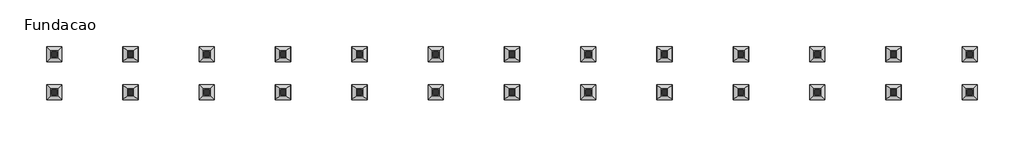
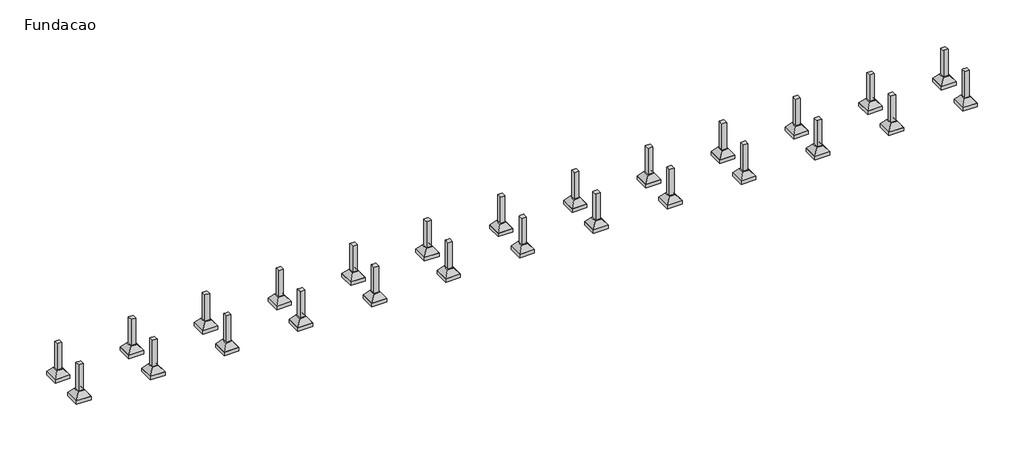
# One storey: 26 columns, 26 fasteners.
"""IFC4 building model written with IfcOpenShell, lengths in millimetres."""

import ifcopenshell
import ifcopenshell.guid

model = None  # the IFC model being written
_history = None  # IfcOwnerHistory: only IFC2X3 demands one
_inside = {}  # id of a spatial element -> (the spatial element, [elements in it])
_under = {}  # id of a project, library or spatial element -> (it, [spatial elements below it])
_declared = {}  # id of a project -> (the project, [libraries it declares])
_typed = {}  # id of a type object -> (the type object, [elements of that type])
_made_of = {}  # id of a material, layer set ... -> (it, [elements and type objects made of it])


def new_model(schema):
    """Start an empty IFC model of exactly this schema.

    Asked for "IFC4X3", IfcOpenShell would pick the latest addendum, in which some entities
    have other attributes; the version numbers below select the first issue.
    IFC2X3 requires an IfcOwnerHistory on every rooted entity: one is made here for all.
    """
    global model, _history
    if schema == "IFC4X3":
        model = ifcopenshell.file(schema_version=(4, 3, 0, 0))
    else:
        model = ifcopenshell.file(schema=schema)
    _inside.clear()
    _under.clear()
    _declared.clear()
    _typed.clear()
    _made_of.clear()
    _history = None
    if model.schema == "IFC2X3":
        org = make("IfcOrganization", Name="unknown")
        user = make(
            "IfcPersonAndOrganization",
            ThePerson=make("IfcPerson", FamilyName="unknown"),
            TheOrganization=org,
        )
        app = make(
            "IfcApplication",
            ApplicationDeveloper=org,
            Version="unknown",
            ApplicationFullName="unknown",
            ApplicationIdentifier="unknown",
        )
        _history = make(
            "IfcOwnerHistory",
            OwningUser=user,
            OwningApplication=app,
            ChangeAction="ADDED",
            CreationDate=0,
        )
    return model


def make(cls, **values):
    """One entity of the class cls with the attributes given. An attribute that is None is left unset."""
    return model.create_entity(
        cls, **{name: value for name, value in values.items() if value is not None}
    )


def rooted(cls, **values):
    """An entity with a GlobalId (a new one), such as an element, a storey or a relation."""
    return make(cls, GlobalId=ifcopenshell.guid.new(), OwnerHistory=_history, **values)


def si_unit(unit_type, name, prefix=None):
    """IfcSIUnit, for example si_unit("LENGTHUNIT", "METRE", prefix="MILLI")."""
    return make("IfcSIUnit", UnitType=unit_type, Prefix=prefix, Name=name)


def assignment(units):
    """IfcUnitAssignment: the units of a project."""
    return None if units is None else make("IfcUnitAssignment", Units=units)


def point(xyz):
    """IfcCartesianPoint."""
    return None if xyz is None else make("IfcCartesianPoint", Coordinates=xyz)


def direction(xyz):
    """IfcDirection."""
    return None if xyz is None else make("IfcDirection", DirectionRatios=xyz)


def frame(location, z_axis=None, x_axis=None):
    """IfcAxis2Placement3D, a coordinate frame: its origin and axes. An axis left out is left unset."""
    return make(
        "IfcAxis2Placement3D",
        Location=point(location),
        Axis=direction(z_axis),
        RefDirection=direction(x_axis),
    )


def origin():
    """The frame at (0, 0, 0) with its axes left unset."""
    return frame((0.0, 0.0, 0.0))


def place(relative_to, where):
    """IfcLocalPlacement: puts the frame where relative to a parent placement (None: the world)."""
    return make(
        "IfcLocalPlacement", PlacementRelTo=relative_to, RelativePlacement=where
    )


def context(
    kind, dimensions, precision=None, world=None, true_north=None, identifier=None
):
    """IfcGeometricRepresentationContext, for example the 3D "Model" context."""
    return make(
        "IfcGeometricRepresentationContext",
        ContextIdentifier=identifier,
        ContextType=kind,
        CoordinateSpaceDimension=dimensions,
        Precision=precision,
        WorldCoordinateSystem=world,
        TrueNorth=true_north,
    )


def project(units=None, contexts=None):
    """IfcProject with its units and contexts."""
    return rooted(
        "IfcProject",
        Name="project",
        RepresentationContexts=contexts,
        UnitsInContext=assignment(units),
    )


def spatial(cls, under=None, at=None, **own):
    """A site, building, storey or space (cls), placed at a placement, below another one or the project."""
    s = rooted(cls, ObjectPlacement=at, **own)
    if under is not None:
        _under.setdefault(under.id(), (under, []))[1].append(s)
    return s


def polyline(points):
    """IfcPolyline through the points."""
    return make("IfcPolyline", Points=[point(p) for p in points])


def outline(outer, holes=None, kind="AREA"):
    """IfcArbitraryClosedProfileDef: a profile drawn as a closed curve; with holes, ...WithVoids."""
    if holes is None:
        return make("IfcArbitraryClosedProfileDef", ProfileType=kind, OuterCurve=outer)
    return make(
        "IfcArbitraryProfileDefWithVoids",
        ProfileType=kind,
        OuterCurve=outer,
        InnerCurves=holes,
    )


def extrude(swept, where, along, depth):
    """IfcExtrudedAreaSolid: the profile swept, set in the frame where, extruded along a direction by depth."""
    return make(
        "IfcExtrudedAreaSolid",
        SweptArea=swept,
        Position=where,
        ExtrudedDirection=direction(along),
        Depth=depth,
    )


def faces_of(points, faces, orient=None, outer=None):
    """IfcFace entities. A face is a list of loops; a loop is a list of indices into points, from 0.

    orient and outer hold one flag for each loop. By default every Orientation is true, the
    first loop of a face is its IfcFaceOuterBound and the others are IfcFaceBound.
    """
    made = []
    for i, loops in enumerate(faces):
        bounds = []
        for j, loop in enumerate(loops):
            is_outer = j == 0 if outer is None else outer[i][j]
            bounds.append(
                make(
                    "IfcFaceOuterBound" if is_outer else "IfcFaceBound",
                    Bound=make("IfcPolyLoop", Polygon=[points[k] for k in loop]),
                    Orientation=True if orient is None else orient[i][j],
                )
            )
        made.append(make("IfcFace", Bounds=bounds))
    return made


def faceted_brep(points, faces, orient=None, outer=None, voids=None):
    """IfcFacetedBrep: a solid bounded by flat faces; with voids (closed shells), ...WithVoids."""
    shared = [point(p) for p in points]
    hull = make("IfcClosedShell", CfsFaces=faces_of(shared, faces, orient, outer))
    if voids is None:
        return make("IfcFacetedBrep", Outer=hull)
    return make(
        "IfcFacetedBrepWithVoids",
        Outer=hull,
        Voids=[
            make(cls, CfsFaces=faces_of(shared, fs, o, b)) for cls, fs, o, b in voids
        ],
    )


def shape(context_of_items, identifier, shape_type, items):
    """IfcShapeRepresentation: the items that make up one representation, for example the "Body"."""
    return make(
        "IfcShapeRepresentation",
        ContextOfItems=context_of_items,
        RepresentationIdentifier=identifier,
        RepresentationType=shape_type,
        Items=items,
    )


def source(mapping_origin, context_of_items, identifier, shape_type, items):
    """IfcRepresentationMap: a shape defined once, which mapped items show again and again."""
    return make(
        "IfcRepresentationMap",
        MappingOrigin=mapping_origin,
        MappedRepresentation=shape(context_of_items, identifier, shape_type, items),
    )


def transform(
    local_origin,
    x_axis=None,
    y_axis=None,
    z_axis=None,
    scale=None,
    scale2=None,
    scale3=None,
    uniform=True,
):
    """IfcCartesianTransformationOperator3D, or its non-uniform kind. x_axis, y_axis, z_axis: its Axis1, 2, 3."""
    if uniform:
        return make(
            "IfcCartesianTransformationOperator3D",
            Axis1=direction(x_axis),
            Axis2=direction(y_axis),
            LocalOrigin=point(local_origin),
            Scale=scale,
            Axis3=direction(z_axis),
        )
    return make(
        "IfcCartesianTransformationOperator3DnonUniform",
        Axis1=direction(x_axis),
        Axis2=direction(y_axis),
        LocalOrigin=point(local_origin),
        Scale=scale,
        Axis3=direction(z_axis),
        Scale2=scale2,
        Scale3=scale3,
    )


def mapped(mapping_source, mapping_target):
    """IfcMappedItem: shows the shape of a source again, moved by a transform."""
    return make(
        "IfcMappedItem", MappingSource=mapping_source, MappingTarget=mapping_target
    )


def made_of(thing, what):
    """Note that an element or type object is made of a material, layer set ...; save() writes the relation."""
    if what is not None:
        _made_of.setdefault(what.id(), (what, []))[1].append(thing)
    return thing


def element(
    cls,
    number,
    at=None,
    inside=None,
    cuts=None,
    type_object=None,
    material=None,
    context=None,
    identifier="Body",
    shape_type=None,
    held_by="IfcProductDefinitionShape",
    body=None,
    shapes=None,
    **own,
):
    """One element of the class cls, such as IfcWall. Its Tag is "e" and its number.

    at: its placement. inside: the storey or other place that contains it. cuts: it is an
    opening in that element (IfcRelVoidsElement). A single representation is given by context,
    identifier, shape_type and body (its items); several are given by shapes. held_by: the class
    of the entity that holds the representations. save() writes the other relations.
    """
    e = rooted(cls, Tag="e%d" % number, ObjectPlacement=at, **own)
    if body is not None:
        shapes = [shape(context, identifier, shape_type, body)]
    if shapes is not None:
        e.Representation = make(held_by, Representations=shapes)
    if inside is not None:
        _inside.setdefault(inside.id(), (inside, []))[1].append(e)
    if cuts is not None:
        rooted(
            "IfcRelVoidsElement", RelatingBuildingElement=cuts, RelatedOpeningElement=e
        )
    if type_object is not None:
        _typed.setdefault(type_object.id(), (type_object, []))[1].append(e)
    return made_of(e, material)


def aggregate(whole, parts):
    """IfcRelAggregates: a whole, such as a stair, and the parts it consists of."""
    return rooted("IfcRelAggregates", RelatingObject=whole, RelatedObjects=parts)


def save(model, path):
    """Write the relations noted so far, then the file.

    IfcRelAggregates (storeys below a building ...), IfcRelContainedInSpatialStructure (elements
    in a storey), IfcRelDefinesByType, IfcRelAssociatesMaterial and IfcRelDeclares: one each for
    every whole, place, type object, material and project.
    """
    for whole, parts in _under.values():
        aggregate(whole, parts)
    for where, things in _inside.values():
        rooted(
            "IfcRelContainedInSpatialStructure",
            RelatedElements=things,
            RelatingStructure=where,
        )
    for kind, things in _typed.values():
        rooted("IfcRelDefinesByType", RelatedObjects=things, RelatingType=kind)
    for what, things in _made_of.values():
        rooted("IfcRelAssociatesMaterial", RelatedObjects=things, RelatingMaterial=what)
    for by, libraries in _declared.values():
        rooted("IfcRelDeclares", RelatingContext=by, RelatedDefinitions=libraries)
    model.write(path)


def s1_263c41ab(model_context):
    return source(origin(), model_context, "Body", "SolidModel", [
        faceted_brep([(-25.0, -25.0, 0.0), (-375.0, -25.0, 0.0), (-375.0, -375.0, 0.0), (-25.0, -375.0, 0.0), (200.0, 200.0, -300.0), (200.0, -600.0, -300.0), (-600.0, -600.0, -300.0), (-600.0, 200.0, -300.0)], [[[0, 1, 2, 3]], [[4, 5, 6, 7]], [[4, 7, 1, 0]], [[7, 6, 2, 1]], [[6, 5, 3, 2]], [[5, 4, 0, 3]]]),
        extrude(outline(polyline([(200.0, 200.0), (200.0, -600.0), (-600.0, -600.0), (-600.0, 200.0), (200.0, 200.0)])), frame((0.0, 0.0, -500.0), z_axis=(0.0, 0.0, 1.0), x_axis=(1.0, 0.0, 0.0)), (0.0, 0.0, 1.0), 200.0),
    ])


model = new_model("IFC4")

# Units and contexts
model_context = context("Model", 3, world=origin())
ifc_project = project(units=[si_unit("LENGTHUNIT", "METRE", prefix="MILLI")], contexts=[model_context])

# Site, building, storey
site = spatial("IfcSite", under=ifc_project)
building = spatial("IfcBuilding", under=site)
storey = spatial("IfcBuildingStorey", under=building, Name="Fundacao", Elevation=0.0)

# Columns
placement = place(None, origin())
element("IfcColumn", 1, ObjectType="TQS - Pilar retangular : 25,0x25,0", at=placement, inside=storey, context=model_context, shape_type="Brep", body=[
    faceted_brep([(-3786.795675, 1437.2017038, 0.0), (-3786.795675, 1187.2017038, 0.0), (-4036.795675, 1187.2017038, 0.0), (-4036.795675, 1437.2017038, 0.0), (-3786.795675, 1437.2017038, 1500.0), (-3786.795675, 1387.2017038, 1500.0), (-3786.795675, 1237.2017038, 1500.0), (-3786.795675, 1187.2017038, 1500.0), (-3836.795675, 1187.2017038, 1500.0), (-3986.795675, 1187.2017038, 1500.0), (-4036.795675, 1187.2017038, 1500.0), (-4036.795675, 1437.2017038, 1500.0)], [[[0, 1, 2, 3]], [[4, 5, 6, 7, 1, 0]], [[7, 8, 9, 10, 2, 1]], [[10, 11, 3, 2]], [[11, 4, 0, 3]], [[4, 11, 10, 9, 8, 7, 6, 5]]]),
])
element("IfcColumn", 2, ObjectType="TQS - Pilar retangular : 25,0x25,0", at=placement, inside=storey, context=model_context, shape_type="Brep", body=[
    faceted_brep([(-3786.795675, -562.7982962, 0.0), (-3786.795675, -812.7982962, 0.0), (-4036.795675, -812.7982962, 0.0), (-4036.795675, -562.7982962, 0.0), (-3786.795675, -562.7982962, 1500.0), (-3786.795675, -612.7982962, 1500.0), (-3786.795675, -762.7982962, 1500.0), (-3786.795675, -812.7982962, 1500.0), (-4036.795675, -812.7982962, 1500.0), (-4036.795675, -562.7982962, 1500.0), (-3986.795675, -562.7982962, 1500.0), (-3836.795675, -562.7982962, 1500.0)], [[[0, 1, 2, 3]], [[4, 5, 6, 7, 1, 0]], [[7, 8, 2, 1]], [[8, 9, 3, 2]], [[9, 10, 11, 4, 0, 3]], [[4, 11, 10, 9, 8, 7, 6, 5]]]),
])
element("IfcColumn", 3, ObjectType="TQS - Pilar retangular : 25,0x25,0", at=placement, inside=storey, context=model_context, shape_type="Brep", body=[
    faceted_brep([(213.204325, 1437.2017038, 0.0), (213.204325, 1187.2017038, 0.0), (-36.795675, 1187.2017038, 0.0), (-36.795675, 1437.2017038, 0.0), (213.204325, 1437.2017038, 1500.0), (213.204325, 1387.2017038, 1500.0), (213.204325, 1237.2017038, 1500.0), (213.204325, 1187.2017038, 1500.0), (163.204325, 1187.2017038, 1500.0), (13.204325, 1187.2017038, 1500.0), (-36.795675, 1187.2017038, 1500.0), (-36.795675, 1237.2017038, 1500.0), (-36.795675, 1387.2017038, 1500.0), (-36.795675, 1437.2017038, 1500.0)], [[[0, 1, 2, 3]], [[4, 5, 6, 7, 1, 0]], [[7, 8, 9, 10, 2, 1]], [[10, 11, 12, 13, 3, 2]], [[13, 4, 0, 3]], [[4, 13, 12, 11, 10, 9, 8, 7, 6, 5]]]),
])
element("IfcColumn", 4, ObjectType="TQS - Pilar retangular : 25,0x25,0", at=placement, inside=storey, context=model_context, shape_type="Brep", body=[
    faceted_brep([(213.204325, -562.7982962, 0.0), (213.204325, -812.7982962, 0.0), (-36.795675, -812.7982962, 0.0), (-36.795675, -562.7982962, 0.0), (213.204325, -562.7982962, 1500.0), (213.204325, -612.7982962, 1500.0), (213.204325, -762.7982962, 1500.0), (213.204325, -812.7982962, 1500.0), (-36.795675, -812.7982962, 1500.0), (-36.795675, -762.7982962, 1500.0), (-36.795675, -612.7982962, 1500.0), (-36.795675, -562.7982962, 1500.0), (13.204325, -562.7982962, 1500.0), (163.204325, -562.7982962, 1500.0)], [[[0, 1, 2, 3]], [[4, 5, 6, 7, 1, 0]], [[7, 8, 2, 1]], [[8, 9, 10, 11, 3, 2]], [[11, 12, 13, 4, 0, 3]], [[4, 13, 12, 11, 10, 9, 8, 7, 6, 5]]]),
])
element("IfcColumn", 5, ObjectType="TQS - Pilar retangular : 25,0x25,0", at=placement, inside=storey, context=model_context, shape_type="Brep", body=[
    faceted_brep([(4213.204325, 1437.2017038, 0.0), (4213.204325, 1187.2017038, 0.0), (3963.204325, 1187.2017038, 0.0), (3963.204325, 1437.2017038, 0.0), (4213.204325, 1437.2017038, 1500.0), (4213.204325, 1387.2017038, 1500.0), (4213.204325, 1237.2017038, 1500.0), (4213.204325, 1187.2017038, 1500.0), (4163.204325, 1187.2017038, 1500.0), (4013.204325, 1187.2017038, 1500.0), (3963.204325, 1187.2017038, 1500.0), (3963.204325, 1237.2017038, 1500.0), (3963.204325, 1387.2017038, 1500.0), (3963.204325, 1437.2017038, 1500.0)], [[[0, 1, 2, 3]], [[4, 5, 6, 7, 1, 0]], [[7, 8, 9, 10, 2, 1]], [[10, 11, 12, 13, 3, 2]], [[13, 4, 0, 3]], [[4, 13, 12, 11, 10, 9, 8, 7, 6, 5]]]),
])
element("IfcColumn", 6, ObjectType="TQS - Pilar retangular : 25,0x25,0", at=placement, inside=storey, context=model_context, shape_type="Brep", body=[
    faceted_brep([(4213.204325, -562.7982962, 0.0), (4213.204325, -812.7982962, 0.0), (3963.204325, -812.7982962, 0.0), (3963.204325, -562.7982962, 0.0), (4213.204325, -562.7982962, 1500.0), (4213.204325, -612.7982962, 1500.0), (4213.204325, -762.7982962, 1500.0), (4213.204325, -812.7982962, 1500.0), (3963.204325, -812.7982962, 1500.0), (3963.204325, -762.7982962, 1500.0), (3963.204325, -612.7982962, 1500.0), (3963.204325, -562.7982962, 1500.0), (4013.204325, -562.7982962, 1500.0), (4163.204325, -562.7982962, 1500.0)], [[[0, 1, 2, 3]], [[4, 5, 6, 7, 1, 0]], [[7, 8, 2, 1]], [[8, 9, 10, 11, 3, 2]], [[11, 12, 13, 4, 0, 3]], [[4, 13, 12, 11, 10, 9, 8, 7, 6, 5]]]),
])
element("IfcColumn", 7, ObjectType="TQS - Pilar retangular : 25,0x25,0", at=placement, inside=storey, context=model_context, shape_type="Brep", body=[
    faceted_brep([(8213.204325, 1437.2017038, 0.0), (8213.204325, 1187.2017038, 0.0), (7963.204325, 1187.2017038, 0.0), (7963.204325, 1437.2017038, 0.0), (8213.204325, 1437.2017038, 1500.0), (8213.204325, 1387.2017038, 1500.0), (8213.204325, 1237.2017038, 1500.0), (8213.204325, 1187.2017038, 1500.0), (8163.204325, 1187.2017038, 1500.0), (8013.204325, 1187.2017038, 1500.0), (7963.204325, 1187.2017038, 1500.0), (7963.204325, 1237.2017038, 1500.0), (7963.204325, 1387.2017038, 1500.0), (7963.204325, 1437.2017038, 1500.0)], [[[0, 1, 2, 3]], [[4, 5, 6, 7, 1, 0]], [[7, 8, 9, 10, 2, 1]], [[10, 11, 12, 13, 3, 2]], [[13, 4, 0, 3]], [[4, 13, 12, 11, 10, 9, 8, 7, 6, 5]]]),
])
element("IfcColumn", 8, ObjectType="TQS - Pilar retangular : 25,0x25,0", at=placement, inside=storey, context=model_context, shape_type="Brep", body=[
    faceted_brep([(8213.204325, -562.7982962, 0.0), (8213.204325, -812.7982962, 0.0), (7963.204325, -812.7982962, 0.0), (7963.204325, -562.7982962, 0.0), (8213.204325, -562.7982962, 1500.0), (8213.204325, -612.7982962, 1500.0), (8213.204325, -762.7982962, 1500.0), (8213.204325, -812.7982962, 1500.0), (7963.204325, -812.7982962, 1500.0), (7963.204325, -762.7982962, 1500.0), (7963.204325, -612.7982962, 1500.0), (7963.204325, -562.7982962, 1500.0), (8013.204325, -562.7982962, 1500.0), (8163.204325, -562.7982962, 1500.0)], [[[0, 1, 2, 3]], [[4, 5, 6, 7, 1, 0]], [[7, 8, 2, 1]], [[8, 9, 10, 11, 3, 2]], [[11, 12, 13, 4, 0, 3]], [[4, 13, 12, 11, 10, 9, 8, 7, 6, 5]]]),
])
element("IfcColumn", 9, ObjectType="TQS - Pilar retangular : 25,0x25,0", at=placement, inside=storey, context=model_context, shape_type="Brep", body=[
    faceted_brep([(12213.204325, 1437.2017038, 0.0), (12213.204325, 1187.2017038, 0.0), (11963.204325, 1187.2017038, 0.0), (11963.204325, 1437.2017038, 0.0), (12213.204325, 1437.2017038, 1500.0), (12213.204325, 1387.2017038, 1500.0), (12213.204325, 1237.2017038, 1500.0), (12213.204325, 1187.2017038, 1500.0), (12163.204325, 1187.2017038, 1500.0), (12013.204325, 1187.2017038, 1500.0), (11963.204325, 1187.2017038, 1500.0), (11963.204325, 1237.2017038, 1500.0), (11963.204325, 1387.2017038, 1500.0), (11963.204325, 1437.2017038, 1500.0)], [[[0, 1, 2, 3]], [[4, 5, 6, 7, 1, 0]], [[7, 8, 9, 10, 2, 1]], [[10, 11, 12, 13, 3, 2]], [[13, 4, 0, 3]], [[4, 13, 12, 11, 10, 9, 8, 7, 6, 5]]]),
])
element("IfcColumn", 10, ObjectType="TQS - Pilar retangular : 25,0x25,0", at=placement, inside=storey, context=model_context, shape_type="Brep", body=[
    faceted_brep([(12213.204325, -562.7982962, 0.0), (12213.204325, -812.7982962, 0.0), (11963.204325, -812.7982962, 0.0), (11963.204325, -562.7982962, 0.0), (12213.204325, -562.7982962, 1500.0), (12213.204325, -612.7982962, 1500.0), (12213.204325, -762.7982962, 1500.0), (12213.204325, -812.7982962, 1500.0), (11963.204325, -812.7982962, 1500.0), (11963.204325, -762.7982962, 1500.0), (11963.204325, -612.7982962, 1500.0), (11963.204325, -562.7982962, 1500.0), (12013.204325, -562.7982962, 1500.0), (12163.204325, -562.7982962, 1500.0)], [[[0, 1, 2, 3]], [[4, 5, 6, 7, 1, 0]], [[7, 8, 2, 1]], [[8, 9, 10, 11, 3, 2]], [[11, 12, 13, 4, 0, 3]], [[4, 13, 12, 11, 10, 9, 8, 7, 6, 5]]]),
])
element("IfcColumn", 11, ObjectType="TQS - Pilar retangular : 25,0x25,0", at=placement, inside=storey, context=model_context, shape_type="Brep", body=[
    faceted_brep([(16213.204325, 1437.2017038, 0.0), (16213.204325, 1187.2017038, 0.0), (15963.204325, 1187.2017038, 0.0), (15963.204325, 1437.2017038, 0.0), (16213.204325, 1437.2017038, 1500.0), (16213.204325, 1387.2017038, 1500.0), (16213.204325, 1237.2017038, 1500.0), (16213.204325, 1187.2017038, 1500.0), (16163.204325, 1187.2017038, 1500.0), (16013.204325, 1187.2017038, 1500.0), (15963.204325, 1187.2017038, 1500.0), (15963.204325, 1237.2017038, 1500.0), (15963.204325, 1387.2017038, 1500.0), (15963.204325, 1437.2017038, 1500.0)], [[[0, 1, 2, 3]], [[4, 5, 6, 7, 1, 0]], [[7, 8, 9, 10, 2, 1]], [[10, 11, 12, 13, 3, 2]], [[13, 4, 0, 3]], [[4, 13, 12, 11, 10, 9, 8, 7, 6, 5]]]),
])
element("IfcColumn", 12, ObjectType="TQS - Pilar retangular : 25,0x25,0", at=placement, inside=storey, context=model_context, shape_type="Brep", body=[
    faceted_brep([(16213.204325, -562.7982962, 0.0), (16213.204325, -812.7982962, 0.0), (15963.204325, -812.7982962, 0.0), (15963.204325, -562.7982962, 0.0), (16213.204325, -562.7982962, 1500.0), (16213.204325, -612.7982962, 1500.0), (16213.204325, -762.7982962, 1500.0), (16213.204325, -812.7982962, 1500.0), (15963.204325, -812.7982962, 1500.0), (15963.204325, -762.7982962, 1500.0), (15963.204325, -612.7982962, 1500.0), (15963.204325, -562.7982962, 1500.0), (16013.204325, -562.7982962, 1500.0), (16163.204325, -562.7982962, 1500.0)], [[[0, 1, 2, 3]], [[4, 5, 6, 7, 1, 0]], [[7, 8, 2, 1]], [[8, 9, 10, 11, 3, 2]], [[11, 12, 13, 4, 0, 3]], [[4, 13, 12, 11, 10, 9, 8, 7, 6, 5]]]),
])
element("IfcColumn", 13, ObjectType="TQS - Pilar retangular : 25,0x25,0", at=placement, inside=storey, context=model_context, shape_type="Brep", body=[
    faceted_brep([(20213.204325, 1437.2017038, 0.0), (20213.204325, 1187.2017038, 0.0), (19963.204325, 1187.2017038, 0.0), (19963.204325, 1437.2017038, 0.0), (20213.204325, 1437.2017038, 1500.0), (20213.204325, 1387.2017038, 1500.0), (20213.204325, 1237.2017038, 1500.0), (20213.204325, 1187.2017038, 1500.0), (20163.204325, 1187.2017038, 1500.0), (20013.204325, 1187.2017038, 1500.0), (19963.204325, 1187.2017038, 1500.0), (19963.204325, 1237.2017038, 1500.0), (19963.204325, 1387.2017038, 1500.0), (19963.204325, 1437.2017038, 1500.0)], [[[0, 1, 2, 3]], [[4, 5, 6, 7, 1, 0]], [[7, 8, 9, 10, 2, 1]], [[10, 11, 12, 13, 3, 2]], [[13, 4, 0, 3]], [[4, 13, 12, 11, 10, 9, 8, 7, 6, 5]]]),
])
element("IfcColumn", 14, ObjectType="TQS - Pilar retangular : 25,0x25,0", at=placement, inside=storey, context=model_context, shape_type="Brep", body=[
    faceted_brep([(20213.204325, -562.7982962, 0.0), (20213.204325, -812.7982962, 0.0), (19963.204325, -812.7982962, 0.0), (19963.204325, -562.7982962, 0.0), (20213.204325, -562.7982962, 1500.0), (20213.204325, -612.6028921, 1500.0), (20213.204325, -762.6030753, 1500.0), (20213.204325, -812.7982962, 1500.0), (19963.204325, -812.7982962, 1500.0), (19963.204325, -762.7982962, 1500.0), (19963.204325, -612.7982962, 1500.0), (19963.204325, -562.7982962, 1500.0), (20013.204325, -562.7982962, 1500.0), (20163.204325, -562.7982962, 1500.0)], [[[0, 1, 2, 3]], [[4, 5, 6, 7, 1, 0]], [[7, 8, 2, 1]], [[8, 9, 10, 11, 3, 2]], [[11, 12, 13, 4, 0, 3]], [[4, 13, 12, 11, 10, 9, 8, 7, 6, 5]]]),
])
element("IfcColumn", 15, ObjectType="TQS - Pilar retangular : 25,0x25,0", at=placement, inside=storey, context=model_context, shape_type="Brep", body=[
    faceted_brep([(24213.204325, 1437.2017038, 0.0), (24213.204325, 1187.2017038, 0.0), (23963.204325, 1187.2017038, 0.0), (23963.204325, 1437.2017038, 0.0), (24213.204325, 1437.2017038, 1500.0), (24213.204325, 1387.2017038, 1500.0), (24213.204325, 1237.2017038, 1500.0), (24213.204325, 1187.2017038, 1500.0), (24163.204325, 1187.2017038, 1500.0), (24013.204325, 1187.2017038, 1500.0), (23963.204325, 1187.2017038, 1500.0), (23963.204325, 1237.2017038, 1500.0), (23963.204325, 1387.2017038, 1500.0), (23963.204325, 1437.2017038, 1500.0)], [[[0, 1, 2, 3]], [[4, 5, 6, 7, 1, 0]], [[7, 8, 9, 10, 2, 1]], [[10, 11, 12, 13, 3, 2]], [[13, 4, 0, 3]], [[4, 13, 12, 11, 10, 9, 8, 7, 6, 5]]]),
])
element("IfcColumn", 16, ObjectType="TQS - Pilar retangular : 25,0x25,0", at=placement, inside=storey, context=model_context, shape_type="Brep", body=[
    faceted_brep([(24213.204325, -562.7982962, 0.0), (24213.204325, -812.7982962, 0.0), (23963.204325, -812.7982962, 0.0), (23963.204325, -562.7982962, 0.0), (24213.204325, -562.7982962, 1500.0), (24213.204325, -606.3528921, 1500.0), (24213.204325, -756.3530753, 1500.0), (24213.204325, -812.7982962, 1500.0), (23963.204325, -812.7982962, 1500.0), (23963.204325, -756.7437003, 1500.0), (23963.204325, -606.7435171, 1500.0), (23963.204325, -562.7982962, 1500.0), (24013.204325, -562.7982962, 1500.0), (24163.204325, -562.7982962, 1500.0)], [[[0, 1, 2, 3]], [[4, 5, 6, 7, 1, 0]], [[7, 8, 2, 1]], [[8, 9, 10, 11, 3, 2]], [[11, 12, 13, 4, 0, 3]], [[4, 13, 12, 11, 10, 9, 8, 7, 6, 5]]]),
])
element("IfcColumn", 17, ObjectType="TQS - Pilar retangular : 25,0x25,0", at=placement, inside=storey, context=model_context, shape_type="Brep", body=[
    faceted_brep([(28213.204325, 1437.2017038, 0.0), (28213.204325, 1187.2017038, 0.0), (27963.204325, 1187.2017038, 0.0), (27963.204325, 1437.2017038, 0.0), (28213.204325, 1437.2017038, 1500.0), (28213.204325, 1387.2017038, 1500.0), (28213.204325, 1237.2017038, 1500.0), (28213.204325, 1187.2017038, 1500.0), (28163.204325, 1187.2017038, 1500.0), (28013.204325, 1187.2017038, 1500.0), (27963.204325, 1187.2017038, 1500.0), (27963.204325, 1237.2017038, 1500.0), (27963.204325, 1387.2017038, 1500.0), (27963.204325, 1437.2017038, 1500.0)], [[[0, 1, 2, 3]], [[4, 5, 6, 7, 1, 0]], [[7, 8, 9, 10, 2, 1]], [[10, 11, 12, 13, 3, 2]], [[13, 4, 0, 3]], [[4, 13, 12, 11, 10, 9, 8, 7, 6, 5]]]),
])
element("IfcColumn", 18, ObjectType="TQS - Pilar retangular : 25,0x25,0", at=placement, inside=storey, context=model_context, shape_type="Brep", body=[
    faceted_brep([(28213.204325, -562.7982962, 0.0), (28213.204325, -812.7982962, 0.0), (27963.204325, -812.7982962, 0.0), (27963.204325, -562.7982962, 0.0), (28213.204325, -562.7982962, 1500.0), (28213.204325, -600.1028921, 1500.0), (28213.204325, -750.1030753, 1500.0), (28213.204325, -812.7982962, 1500.0), (27963.204325, -812.7982962, 1500.0), (27963.204325, -750.4937003, 1500.0), (27963.204325, -600.4935171, 1500.0), (27963.204325, -562.7982962, 1500.0), (28013.204325, -562.7982962, 1500.0), (28163.204325, -562.7982962, 1500.0)], [[[0, 1, 2, 3]], [[4, 5, 6, 7, 1, 0]], [[7, 8, 2, 1]], [[8, 9, 10, 11, 3, 2]], [[11, 12, 13, 4, 0, 3]], [[4, 13, 12, 11, 10, 9, 8, 7, 6, 5]]]),
])
element("IfcColumn", 19, ObjectType="TQS - Pilar retangular : 25,0x25,0", at=placement, inside=storey, context=model_context, shape_type="Brep", body=[
    faceted_brep([(32213.204325, 1437.2017038, 0.0), (32213.204325, 1187.2017038, 0.0), (31963.204325, 1187.2017038, 0.0), (31963.204325, 1437.2017038, 0.0), (32213.204325, 1437.2017038, 1500.0), (32213.204325, 1387.2017038, 1500.0), (32213.204325, 1237.2017038, 1500.0), (32213.204325, 1187.2017038, 1500.0), (32163.204325, 1187.2017038, 1500.0), (32013.204325, 1187.2017038, 1500.0), (31963.204325, 1187.2017038, 1500.0), (31963.204325, 1237.2017038, 1500.0), (31963.204325, 1387.2017038, 1500.0), (31963.204325, 1437.2017038, 1500.0)], [[[0, 1, 2, 3]], [[4, 5, 6, 7, 1, 0]], [[7, 8, 9, 10, 2, 1]], [[10, 11, 12, 13, 3, 2]], [[13, 4, 0, 3]], [[4, 13, 12, 11, 10, 9, 8, 7, 6, 5]]]),
])
element("IfcColumn", 20, ObjectType="TQS - Pilar retangular : 25,0x25,0", at=placement, inside=storey, context=model_context, shape_type="Brep", body=[
    faceted_brep([(32213.204325, -562.7982962, 0.0), (32213.204325, -812.7982962, 0.0), (31963.204325, -812.7982962, 0.0), (31963.204325, -562.7982962, 0.0), (32213.204325, -562.7982962, 1500.0), (32213.204325, -594.0482962, 1500.0), (32213.204325, -744.0482962, 1500.0), (32213.204325, -812.7982962, 1500.0), (31963.204325, -812.7982962, 1500.0), (31963.204325, -744.2437003, 1500.0), (31963.204325, -594.2435171, 1500.0), (31963.204325, -562.7982962, 1500.0), (32013.204325, -562.7982962, 1500.0), (32163.204325, -562.7982962, 1500.0)], [[[0, 1, 2, 3]], [[4, 5, 6, 7, 1, 0]], [[7, 8, 2, 1]], [[8, 9, 10, 11, 3, 2]], [[11, 12, 13, 4, 0, 3]], [[4, 13, 12, 11, 10, 9, 8, 7, 6, 5]]]),
])
element("IfcColumn", 21, ObjectType="TQS - Pilar retangular : 25,0x25,0", at=placement, inside=storey, context=model_context, shape_type="Brep", body=[
    faceted_brep([(36213.204325, 1437.2017038, 0.0), (36213.204325, 1187.2017038, 0.0), (35963.204325, 1187.2017038, 0.0), (35963.204325, 1437.2017038, 0.0), (36213.204325, 1437.2017038, 1500.0), (36213.204325, 1387.2017038, 1500.0), (36213.204325, 1237.2017038, 1500.0), (36213.204325, 1187.2017038, 1500.0), (36163.204325, 1187.2017038, 1500.0), (36013.204325, 1187.2017038, 1500.0), (35963.204325, 1187.2017038, 1500.0), (35963.204325, 1237.2017038, 1500.0), (35963.204325, 1387.2017038, 1500.0), (35963.204325, 1437.2017038, 1500.0)], [[[0, 1, 2, 3]], [[4, 5, 6, 7, 1, 0]], [[7, 8, 9, 10, 2, 1]], [[10, 11, 12, 13, 3, 2]], [[13, 4, 0, 3]], [[4, 13, 12, 11, 10, 9, 8, 7, 6, 5]]]),
])
element("IfcColumn", 22, ObjectType="TQS - Pilar retangular : 25,0x25,0", at=placement, inside=storey, context=model_context, shape_type="Brep", body=[
    faceted_brep([(36213.204325, -562.7982962, 0.0), (36213.204325, -812.7982962, 0.0), (35963.204325, -812.7982962, 0.0), (35963.204325, -562.7982962, 0.0), (36213.204325, -562.7982962, 1500.0), (36213.204325, -594.0482962, 1500.0), (36213.204325, -744.0482962, 1500.0), (36213.204325, -812.7982962, 1500.0), (35963.204325, -812.7982962, 1500.0), (35963.204325, -744.0482962, 1500.0), (35963.204325, -594.0482962, 1500.0), (35963.204325, -562.7982962, 1500.0), (36013.204325, -562.7982962, 1500.0), (36163.204325, -562.7982962, 1500.0)], [[[0, 1, 2, 3]], [[4, 5, 6, 7, 1, 0]], [[7, 8, 2, 1]], [[8, 9, 10, 11, 3, 2]], [[11, 12, 13, 4, 0, 3]], [[4, 13, 12, 11, 10, 9, 8, 7, 6, 5]]]),
])
element("IfcColumn", 23, ObjectType="TQS - Pilar retangular : 25,0x25,0", at=placement, inside=storey, context=model_context, shape_type="Brep", body=[
    faceted_brep([(40213.204325, 1437.2017038, 0.0), (40213.204325, 1187.2017038, 0.0), (39963.204325, 1187.2017038, 0.0), (39963.204325, 1437.2017038, 0.0), (40213.204325, 1437.2017038, 1500.0), (40213.204325, 1387.2017038, 1500.0), (40213.204325, 1237.2017038, 1500.0), (40213.204325, 1187.2017038, 1500.0), (40163.204325, 1187.2017038, 1500.0), (40013.204325, 1187.2017038, 1500.0), (39963.204325, 1187.2017038, 1500.0), (39963.204325, 1237.2017038, 1500.0), (39963.204325, 1387.2017038, 1500.0), (39963.204325, 1437.2017038, 1500.0)], [[[0, 1, 2, 3]], [[4, 5, 6, 7, 1, 0]], [[7, 8, 9, 10, 2, 1]], [[10, 11, 12, 13, 3, 2]], [[13, 4, 0, 3]], [[4, 13, 12, 11, 10, 9, 8, 7, 6, 5]]]),
])
element("IfcColumn", 24, ObjectType="TQS - Pilar retangular : 25,0x25,0", at=placement, inside=storey, context=model_context, shape_type="Brep", body=[
    faceted_brep([(40213.204325, -562.7982962, 0.0), (40213.204325, -812.7982962, 0.0), (39963.204325, -812.7982962, 0.0), (39963.204325, -562.7982962, 0.0), (40213.204325, -562.7982962, 1500.0), (40213.204325, -594.0482962, 1500.0), (40213.204325, -744.0482962, 1500.0), (40213.204325, -812.7982962, 1500.0), (39963.204325, -812.7982962, 1500.0), (39963.204325, -744.0482962, 1500.0), (39963.204325, -594.0482962, 1500.0), (39963.204325, -562.7982962, 1500.0), (40013.204325, -562.7982962, 1500.0), (40163.204325, -562.7982962, 1500.0)], [[[0, 1, 2, 3]], [[4, 5, 6, 7, 1, 0]], [[7, 8, 2, 1]], [[8, 9, 10, 11, 3, 2]], [[11, 12, 13, 4, 0, 3]], [[4, 13, 12, 11, 10, 9, 8, 7, 6, 5]]]),
])
element("IfcColumn", 25, ObjectType="TQS - Pilar retangular : 25,0x25,0", at=placement, inside=storey, context=model_context, shape_type="Brep", body=[
    faceted_brep([(44213.204325, 1437.2017038, 0.0), (44213.204325, 1187.2017038, 0.0), (43963.204325, 1187.2017038, 0.0), (43963.204325, 1437.2017038, 0.0), (44213.204325, 1437.2017038, 1500.0), (44213.204325, 1187.2017038, 1500.0), (44163.204325, 1187.2017038, 1500.0), (44013.204325, 1187.2017038, 1500.0), (43963.204325, 1187.2017038, 1500.0), (43963.204325, 1237.2017038, 1500.0), (43963.204325, 1387.2017038, 1500.0), (43963.204325, 1437.2017038, 1500.0)], [[[0, 1, 2, 3]], [[4, 5, 1, 0]], [[5, 6, 7, 8, 2, 1]], [[8, 9, 10, 11, 3, 2]], [[11, 4, 0, 3]], [[4, 11, 10, 9, 8, 7, 6, 5]]]),
])
element("IfcColumn", 26, ObjectType="TQS - Pilar retangular : 25,0x25,0", at=placement, inside=storey, context=model_context, shape_type="Brep", body=[
    faceted_brep([(44213.204325, -562.7982962, 0.0), (44213.204325, -812.7982962, 0.0), (43963.204325, -812.7982962, 0.0), (43963.204325, -562.7982962, 0.0), (44213.204325, -562.7982962, 1500.0), (44213.204325, -812.7982962, 1500.0), (43963.204325, -812.7982962, 1500.0), (43963.204325, -744.0482962, 1500.0), (43963.204325, -594.0482962, 1500.0), (43963.204325, -562.7982962, 1500.0), (44013.204325, -562.7982962, 1500.0), (44163.204325, -562.7982962, 1500.0)], [[[0, 1, 2, 3]], [[4, 5, 1, 0]], [[5, 6, 2, 1]], [[6, 7, 8, 9, 3, 2]], [[9, 10, 11, 4, 0, 3]], [[4, 11, 10, 9, 8, 7, 6, 5]]]),
])

# Fasteners
s1_shape = s1_263c41ab(model_context)
element("IfcFastener", 27, ObjectType="TQS - Sapata : S1", at=placement, inside=storey, context=model_context, shape_type="MappedRepresentation", body=[
    mapped(s1_shape, transform((-3711.795675, 1512.2017038, 0.0), x_axis=(1.0, 0.0, 0.0), y_axis=(0.0, 1.0, 0.0), z_axis=(0.0, 0.0, 1.0))),
])
element("IfcFastener", 28, ObjectType="TQS - Sapata : S10", at=placement, inside=storey, context=model_context, shape_type="MappedRepresentation", body=[
    mapped(s1_shape, transform((32288.204325, 1512.2017038, 0.0), x_axis=(1.0, 0.0, 0.0), y_axis=(0.0, 1.0, 0.0), z_axis=(0.0, 0.0, 1.0))),
])
element("IfcFastener", 29, ObjectType="TQS - Sapata : S11", at=placement, inside=storey, context=model_context, shape_type="MappedRepresentation", body=[
    mapped(s1_shape, transform((36288.204325, 1512.2017038, 0.0), x_axis=(1.0, 0.0, 0.0), y_axis=(0.0, 1.0, 0.0), z_axis=(0.0, 0.0, 1.0))),
])
element("IfcFastener", 30, ObjectType="TQS - Sapata : S12", at=placement, inside=storey, context=model_context, shape_type="MappedRepresentation", body=[
    mapped(s1_shape, transform((40288.204325, 1512.2017038, 0.0), x_axis=(1.0, 0.0, 0.0), y_axis=(0.0, 1.0, 0.0), z_axis=(0.0, 0.0, 1.0))),
])
element("IfcFastener", 31, ObjectType="TQS - Sapata : S13", at=placement, inside=storey, context=model_context, shape_type="MappedRepresentation", body=[
    mapped(s1_shape, transform((44288.204325, 1512.2017038, 0.0), x_axis=(1.0, 0.0, 0.0), y_axis=(0.0, 1.0, 0.0), z_axis=(0.0, 0.0, 1.0))),
])
element("IfcFastener", 32, ObjectType="TQS - Sapata : S14", at=placement, inside=storey, context=model_context, shape_type="MappedRepresentation", body=[
    mapped(s1_shape, transform((-3711.795675, -487.7982962, 0.0), x_axis=(1.0, 0.0, 0.0), y_axis=(0.0, 1.0, 0.0), z_axis=(0.0, 0.0, 1.0))),
])
element("IfcFastener", 33, ObjectType="TQS - Sapata : S15", at=placement, inside=storey, context=model_context, shape_type="MappedRepresentation", body=[
    mapped(s1_shape, transform((288.204325, -487.7982962, 0.0), x_axis=(1.0, 0.0, 0.0), y_axis=(0.0, 1.0, 0.0), z_axis=(0.0, 0.0, 1.0))),
])
element("IfcFastener", 34, ObjectType="TQS - Sapata : S16", at=placement, inside=storey, context=model_context, shape_type="MappedRepresentation", body=[
    mapped(s1_shape, transform((4288.204325, -487.7982962, 0.0), x_axis=(1.0, 0.0, 0.0), y_axis=(0.0, 1.0, 0.0), z_axis=(0.0, 0.0, 1.0))),
])
element("IfcFastener", 35, ObjectType="TQS - Sapata : S17", at=placement, inside=storey, context=model_context, shape_type="MappedRepresentation", body=[
    mapped(s1_shape, transform((8288.204325, -487.7982962, 0.0), x_axis=(1.0, 0.0, 0.0), y_axis=(0.0, 1.0, 0.0), z_axis=(0.0, 0.0, 1.0))),
])
element("IfcFastener", 36, ObjectType="TQS - Sapata : S18", at=placement, inside=storey, context=model_context, shape_type="MappedRepresentation", body=[
    mapped(s1_shape, transform((12288.204325, -487.7982962, 0.0), x_axis=(1.0, 0.0, 0.0), y_axis=(0.0, 1.0, 0.0), z_axis=(0.0, 0.0, 1.0))),
])
element("IfcFastener", 37, ObjectType="TQS - Sapata : S19", at=placement, inside=storey, context=model_context, shape_type="MappedRepresentation", body=[
    mapped(s1_shape, transform((16288.204325, -487.7982962, 0.0), x_axis=(1.0, 0.0, 0.0), y_axis=(0.0, 1.0, 0.0), z_axis=(0.0, 0.0, 1.0))),
])
element("IfcFastener", 38, ObjectType="TQS - Sapata : S2", at=placement, inside=storey, context=model_context, shape_type="MappedRepresentation", body=[
    mapped(s1_shape, transform((288.204325, 1512.2017038, 0.0), x_axis=(1.0, 0.0, 0.0), y_axis=(0.0, 1.0, 0.0), z_axis=(0.0, 0.0, 1.0))),
])
element("IfcFastener", 39, ObjectType="TQS - Sapata : S20", at=placement, inside=storey, context=model_context, shape_type="MappedRepresentation", body=[
    mapped(s1_shape, transform((20288.204325, -487.7982962, 0.0), x_axis=(1.0, 0.0, 0.0), y_axis=(0.0, 1.0, 0.0), z_axis=(0.0, 0.0, 1.0))),
])
element("IfcFastener", 40, ObjectType="TQS - Sapata : S21", at=placement, inside=storey, context=model_context, shape_type="MappedRepresentation", body=[
    mapped(s1_shape, transform((24288.204325, -487.7982962, 0.0), x_axis=(1.0, 0.0, 0.0), y_axis=(0.0, 1.0, 0.0), z_axis=(0.0, 0.0, 1.0))),
])
element("IfcFastener", 41, ObjectType="TQS - Sapata : S22", at=placement, inside=storey, context=model_context, shape_type="MappedRepresentation", body=[
    mapped(s1_shape, transform((28288.204325, -487.7982962, 0.0), x_axis=(1.0, 0.0, 0.0), y_axis=(0.0, 1.0, 0.0), z_axis=(0.0, 0.0, 1.0))),
])
element("IfcFastener", 42, ObjectType="TQS - Sapata : S23", at=placement, inside=storey, context=model_context, shape_type="MappedRepresentation", body=[
    mapped(s1_shape, transform((32288.204325, -487.7982962, 0.0), x_axis=(1.0, 0.0, 0.0), y_axis=(0.0, 1.0, 0.0), z_axis=(0.0, 0.0, 1.0))),
])
element("IfcFastener", 43, ObjectType="TQS - Sapata : S24", at=placement, inside=storey, context=model_context, shape_type="MappedRepresentation", body=[
    mapped(s1_shape, transform((36288.204325, -487.7982962, 0.0), x_axis=(1.0, 0.0, 0.0), y_axis=(0.0, 1.0, 0.0), z_axis=(0.0, 0.0, 1.0))),
])
element("IfcFastener", 44, ObjectType="TQS - Sapata : S25", at=placement, inside=storey, context=model_context, shape_type="MappedRepresentation", body=[
    mapped(s1_shape, transform((40288.204325, -487.7982962, 0.0), x_axis=(1.0, 0.0, 0.0), y_axis=(0.0, 1.0, 0.0), z_axis=(0.0, 0.0, 1.0))),
])
element("IfcFastener", 45, ObjectType="TQS - Sapata : S26", at=placement, inside=storey, context=model_context, shape_type="MappedRepresentation", body=[
    mapped(s1_shape, transform((44288.204325, -487.7982962, 0.0), x_axis=(1.0, 0.0, 0.0), y_axis=(0.0, 1.0, 0.0), z_axis=(0.0, 0.0, 1.0))),
])
element("IfcFastener", 46, ObjectType="TQS - Sapata : S3", at=placement, inside=storey, context=model_context, shape_type="MappedRepresentation", body=[
    mapped(s1_shape, transform((4288.204325, 1512.2017038, 0.0), x_axis=(1.0, 0.0, 0.0), y_axis=(0.0, 1.0, 0.0), z_axis=(0.0, 0.0, 1.0))),
])
element("IfcFastener", 47, ObjectType="TQS - Sapata : S4", at=placement, inside=storey, context=model_context, shape_type="MappedRepresentation", body=[
    mapped(s1_shape, transform((8288.204325, 1512.2017038, 0.0), x_axis=(1.0, 0.0, 0.0), y_axis=(0.0, 1.0, 0.0), z_axis=(0.0, 0.0, 1.0))),
])
element("IfcFastener", 48, ObjectType="TQS - Sapata : S5", at=placement, inside=storey, context=model_context, shape_type="MappedRepresentation", body=[
    mapped(s1_shape, transform((12288.204325, 1512.2017038, 0.0), x_axis=(1.0, 0.0, 0.0), y_axis=(0.0, 1.0, 0.0), z_axis=(0.0, 0.0, 1.0))),
])
element("IfcFastener", 49, ObjectType="TQS - Sapata : S6", at=placement, inside=storey, context=model_context, shape_type="MappedRepresentation", body=[
    mapped(s1_shape, transform((16288.204325, 1512.2017038, 0.0), x_axis=(1.0, 0.0, 0.0), y_axis=(0.0, 1.0, 0.0), z_axis=(0.0, 0.0, 1.0))),
])
element("IfcFastener", 50, ObjectType="TQS - Sapata : S7", at=placement, inside=storey, context=model_context, shape_type="MappedRepresentation", body=[
    mapped(s1_shape, transform((20288.204325, 1512.2017038, 0.0), x_axis=(1.0, 0.0, 0.0), y_axis=(0.0, 1.0, 0.0), z_axis=(0.0, 0.0, 1.0))),
])
element("IfcFastener", 51, ObjectType="TQS - Sapata : S8", at=placement, inside=storey, context=model_context, shape_type="MappedRepresentation", body=[
    mapped(s1_shape, transform((24288.204325, 1512.2017038, 0.0), x_axis=(1.0, 0.0, 0.0), y_axis=(0.0, 1.0, 0.0), z_axis=(0.0, 0.0, 1.0))),
])
element("IfcFastener", 52, ObjectType="TQS - Sapata : S9", at=placement, inside=storey, context=model_context, shape_type="MappedRepresentation", body=[
    mapped(s1_shape, transform((28288.204325, 1512.2017038, 0.0), x_axis=(1.0, 0.0, 0.0), y_axis=(0.0, 1.0, 0.0), z_axis=(0.0, 0.0, 1.0))),
])

save(model, "model.ifc")
